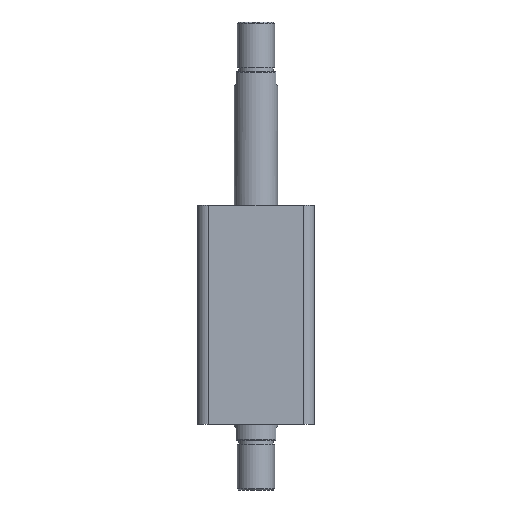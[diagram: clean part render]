
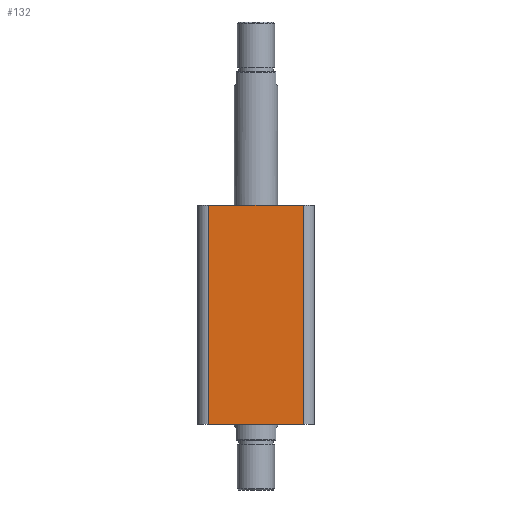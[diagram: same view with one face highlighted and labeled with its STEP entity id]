
A CAD part, front view. The second image highlights one B-rep face of the part: STEP entity #132.
In plain terms, the highlighted planar face has unit normal (0, -1, 0).
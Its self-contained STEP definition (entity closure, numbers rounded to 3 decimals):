
#132 = ADVANCED_FACE ( 'NONE', ( #2269 ), #3097, .F. ) ;
#462 = CARTESIAN_POINT ( 'NONE',  ( 38., -47., 0. ) ) ;
#463 = CARTESIAN_POINT ( 'NONE',  ( -38., -47., 0. ) ) ;
#467 = CARTESIAN_POINT ( 'NONE',  ( 38., -47., 177. ) ) ;
#728 = CARTESIAN_POINT ( 'NONE',  ( -47., -47., 0. ) ) ;
#738 = CARTESIAN_POINT ( 'NONE',  ( -47., -47., 177. ) ) ;
#739 = DIRECTION ( 'NONE',  ( 1., 0., 0. ) ) ;
#740 = CARTESIAN_POINT ( 'NONE',  ( -38., -47., 177. ) ) ;
#741 = DIRECTION ( 'NONE',  ( 0., 0., -1. ) ) ;
#742 = DIRECTION ( 'NONE',  ( 1., 0., 0. ) ) ;
#743 = CARTESIAN_POINT ( 'NONE',  ( 38., -47., 177. ) ) ;
#744 = DIRECTION ( 'NONE',  ( 0., 0., 1. ) ) ;
#1266 = CARTESIAN_POINT ( 'NONE',  ( -38., -47., 177. ) ) ;
#2021 = VERTEX_POINT ( 'NONE', #462 ) ;
#2022 = VERTEX_POINT ( 'NONE', #463 ) ;
#2026 = VERTEX_POINT ( 'NONE', #467 ) ;
#2047 = EDGE_LOOP ( 'NONE', ( #2211, #2205, #2204, #2197 ) ) ;
#2197 = ORIENTED_EDGE ( 'NONE', *, *, #2834, .T. ) ;
#2204 = ORIENTED_EDGE ( 'NONE', *, *, #2833, .T. ) ;
#2205 = ORIENTED_EDGE ( 'NONE', *, *, #2832, .T. ) ;
#2211 = ORIENTED_EDGE ( 'NONE', *, *, #2831, .F. ) ;
#2269 = FACE_OUTER_BOUND ( 'NONE', #2047, .T. ) ;
#2582 = LINE ( 'NONE', #728, #2595 ) ;
#2588 = LINE ( 'NONE', #738, #2591 ) ;
#2590 = LINE ( 'NONE', #740, #2593 ) ;
#2591 = VECTOR ( 'NONE', #739, 1000. ) ;
#2593 = VECTOR ( 'NONE', #741, 1000. ) ;
#2594 = LINE ( 'NONE', #743, #2597 ) ;
#2595 = VECTOR ( 'NONE', #742, 1000. ) ;
#2597 = VECTOR ( 'NONE', #744, 1000. ) ;
#2831 = EDGE_CURVE ( 'NONE', #3438, #2026, #2588, .T. ) ;
#2832 = EDGE_CURVE ( 'NONE', #3438, #2022, #2590, .T. ) ;
#2833 = EDGE_CURVE ( 'NONE', #2022, #2021, #2582, .T. ) ;
#2834 = EDGE_CURVE ( 'NONE', #2021, #2026, #2594, .T. ) ;
#2995 = AXIS2_PLACEMENT_3D ( 'NONE', #3102, #3095, #3093 ) ;
#3093 = DIRECTION ( 'NONE',  ( 0., 0., 1. ) ) ;
#3095 = DIRECTION ( 'NONE',  ( 0., 1., 0. ) ) ;
#3097 = PLANE ( 'NONE',  #2995 ) ;
#3102 = CARTESIAN_POINT ( 'NONE',  ( -47., -47., 177. ) ) ;
#3438 = VERTEX_POINT ( 'NONE', #1266 ) ;
